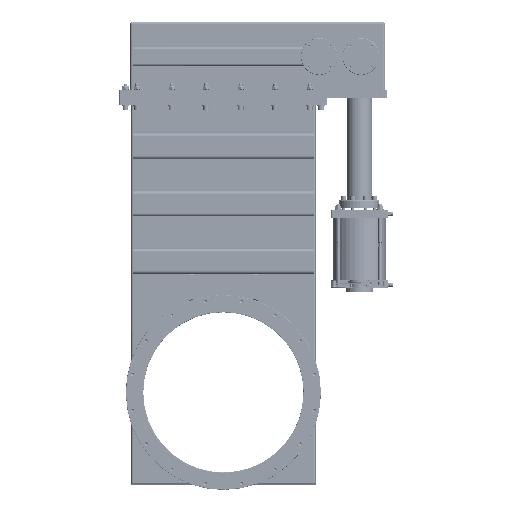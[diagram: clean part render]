
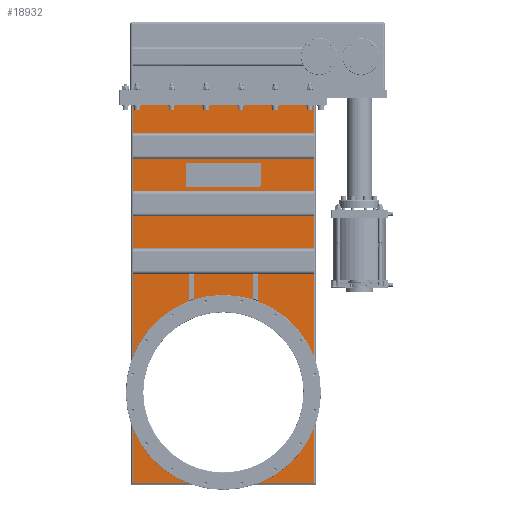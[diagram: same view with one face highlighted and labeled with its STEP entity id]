
A CAD part, top view. The second image highlights one B-rep face of the part: STEP entity #18932.
In plain terms, the highlighted planar face has unit normal (0, 0, 1).
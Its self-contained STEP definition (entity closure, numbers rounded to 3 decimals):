
#12271=FACE_BOUND('',#22728,.T.);
#12272=FACE_BOUND('',#22729,.T.);
#17586=CIRCLE('',#43734,281.6);
#18932=ADVANCED_FACE('',(#12271,#12272),#20575,.F.);
#20575=PLANE('',#43735);
#22728=EDGE_LOOP('',(#27052));
#22729=EDGE_LOOP('',(#27053,#27054,#27055,#27056));
#27052=ORIENTED_EDGE('',*,*,#36540,.T.);
#27053=ORIENTED_EDGE('',*,*,#36541,.T.);
#27054=ORIENTED_EDGE('',*,*,#36542,.T.);
#27055=ORIENTED_EDGE('',*,*,#36537,.F.);
#27056=ORIENTED_EDGE('',*,*,#36543,.T.);
#33568=VERTEX_POINT('',#56436);
#33569=VERTEX_POINT('',#56438);
#33570=VERTEX_POINT('',#56443);
#33571=VERTEX_POINT('',#56445);
#33572=VERTEX_POINT('',#56446);
#36537=EDGE_CURVE('',#33568,#33569,#40069,.T.);
#36540=EDGE_CURVE('',#33570,#33570,#17586,.T.);
#36541=EDGE_CURVE('',#33571,#33572,#40071,.T.);
#36542=EDGE_CURVE('',#33572,#33569,#40072,.T.);
#36543=EDGE_CURVE('',#33568,#33571,#40073,.T.);
#40069=LINE('',#56437,#42014);
#40071=LINE('',#56444,#42016);
#40072=LINE('',#56447,#42017);
#40073=LINE('',#56448,#42018);
#42014=VECTOR('',#47587,1.);
#42016=VECTOR('',#47595,1.);
#42017=VECTOR('',#47596,1.);
#42018=VECTOR('',#47597,1.);
#43734=AXIS2_PLACEMENT_3D('',#56442,#47593,#47594);
#43735=AXIS2_PLACEMENT_3D('',#56449,#47598,#47599);
#47587=DIRECTION('',(1.,0.,0.));
#47593=DIRECTION('',(0.,0.,-1.));
#47594=DIRECTION('',(-1.,0.,0.));
#47595=DIRECTION('',(1.,0.,0.));
#47596=DIRECTION('',(0.,1.,0.));
#47597=DIRECTION('',(0.,-1.,0.));
#47598=DIRECTION('',(0.,0.,-1.));
#47599=DIRECTION('',(-1.,0.,0.));
#56436=CARTESIAN_POINT('',(-282.,908.2,36.5));
#56437=CARTESIAN_POINT('',(0.,908.2,36.5));
#56438=CARTESIAN_POINT('',(282.,908.2,36.5));
#56442=CARTESIAN_POINT('',(0.,0.,36.5));
#56443=CARTESIAN_POINT('',(-281.6,0.,36.5));
#56444=CARTESIAN_POINT('',(0.,-281.75,36.5));
#56445=CARTESIAN_POINT('',(-282.,-281.75,36.5));
#56446=CARTESIAN_POINT('',(282.,-281.75,36.5));
#56447=CARTESIAN_POINT('',(282.,0.,36.5));
#56448=CARTESIAN_POINT('',(-282.,0.,36.5));
#56449=CARTESIAN_POINT('',(0.,0.,
36.5));
